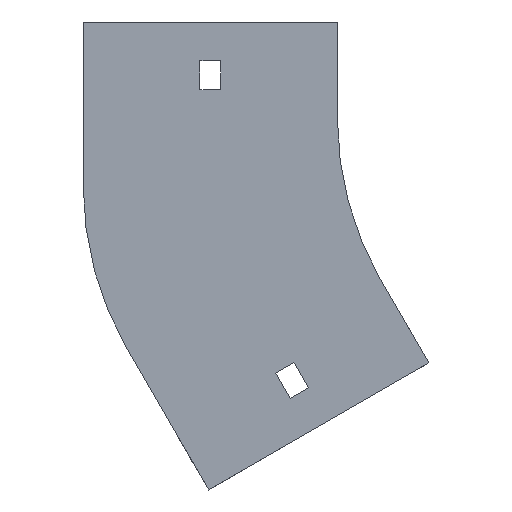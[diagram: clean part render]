
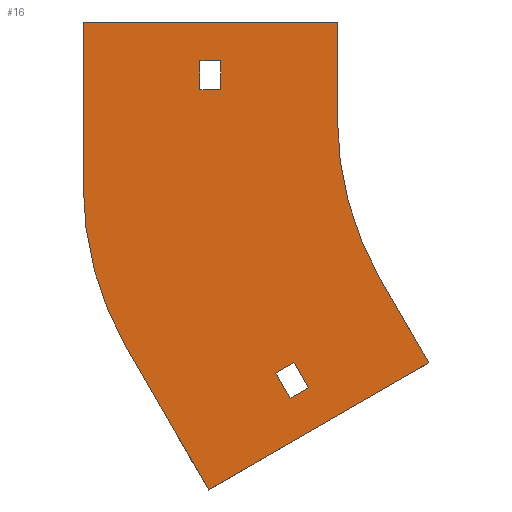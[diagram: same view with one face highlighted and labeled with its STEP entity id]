
A CAD part, front view. The second image highlights one B-rep face of the part: STEP entity #16.
In plain terms, the highlighted planar face has unit normal (0, -1, 0).
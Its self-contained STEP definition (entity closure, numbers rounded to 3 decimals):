
#16 = ADVANCED_FACE ( 'NONE', ( #184, #322, #1391 ), #771, .T. ) ;
#17 = VECTOR ( 'NONE', #772, 1000. ) ;
#30 = ORIENTED_EDGE ( 'NONE', *, *, #1149, .F. ) ;
#37 = CARTESIAN_POINT ( 'NONE',  ( -108.996, 0., -83.713 ) ) ;
#58 = VECTOR ( 'NONE', #1091, 1000. ) ;
#59 = ORIENTED_EDGE ( 'NONE', *, *, #89, .F. ) ;
#77 = LINE ( 'NONE', #320, #613 ) ;
#83 = DIRECTION ( 'NONE',  ( 0., 0., 1. ) ) ;
#85 = DIRECTION ( 'NONE',  ( 0.5, 0., -0.866 ) ) ;
#89 = EDGE_CURVE ( 'NONE', #186, #309, #624, .T. ) ;
#99 = CARTESIAN_POINT ( 'NONE',  ( 0., 0., 0. ) ) ;
#100 = CARTESIAN_POINT ( 'NONE',  ( -140.019, 0., -115.481 ) ) ;
#102 = AXIS2_PLACEMENT_3D ( 'NONE', #965, #948, #300 ) ;
#157 = CARTESIAN_POINT ( 'NONE',  ( -142.75, 0., 18. ) ) ;
#164 = ORIENTED_EDGE ( 'NONE', *, *, #1133, .F. ) ;
#183 = CARTESIAN_POINT ( 'NONE',  ( -140.019, 0., -115.481 ) ) ;
#184 = FACE_BOUND ( 'NONE', #619, .T. ) ;
#186 = VERTEX_POINT ( 'NONE', #553 ) ;
#215 = ORIENTED_EDGE ( 'NONE', *, *, #718, .F. ) ;
#216 = CARTESIAN_POINT ( 'NONE',  ( -71.603, 0., -75.981 ) ) ;
#230 = VERTEX_POINT ( 'NONE', #37 ) ;
#249 = CARTESIAN_POINT ( 'NONE',  ( -136.25, 0., 9. ) ) ;
#258 = VERTEX_POINT ( 'NONE', #1343 ) ;
#268 = VECTOR ( 'NONE', #897, 1000. ) ;
#274 = EDGE_CURVE ( 'NONE', #625, #890, #1139, .T. ) ;
#278 = CIRCLE ( 'NONE', #1137, 100. ) ;
#290 = ORIENTED_EDGE ( 'NONE', *, *, #400, .T. ) ;
#295 = CARTESIAN_POINT ( 'NONE',  ( -142.75, 0., 9. ) ) ;
#300 = DIRECTION ( 'NONE',  ( 0., 0., -1. ) ) ;
#301 = ORIENTED_EDGE ( 'NONE', *, *, #794, .F. ) ;
#309 = VERTEX_POINT ( 'NONE', #586 ) ;
#310 = CARTESIAN_POINT ( 'NONE',  ( -71.603, 0., -75.981 ) ) ;
#314 = DIRECTION ( 'NONE',  ( 0., 0., -1. ) ) ;
#320 = CARTESIAN_POINT ( 'NONE',  ( -142.75, 0., 9. ) ) ;
#322 = FACE_OUTER_BOUND ( 'NONE', #961, .T. ) ;
#323 = LINE ( 'NONE', #1167, #17 ) ;
#328 = LINE ( 'NONE', #1401, #504 ) ;
#353 = EDGE_CURVE ( 'NONE', #866, #1140, #1271, .T. ) ;
#370 = CARTESIAN_POINT ( 'NONE',  ( -119.125, 0., -79.169 ) ) ;
#387 = VERTEX_POINT ( 'NONE', #183 ) ;
#389 = VERTEX_POINT ( 'NONE', #751 ) ;
#394 = EDGE_CURVE ( 'NONE', #309, #389, #1019, .T. ) ;
#400 = EDGE_CURVE ( 'NONE', #1140, #625, #77, .T. ) ;
#420 = EDGE_CURVE ( 'NONE', #1114, #1094, #863, .T. ) ;
#425 = CARTESIAN_POINT ( 'NONE',  ( -179., 0., -21.168 ) ) ;
#427 = VECTOR ( 'NONE', #593, 1000. ) ;
#439 = EDGE_CURVE ( 'NONE', #608, #1278, #1396, .T. ) ;
#454 = VECTOR ( 'NONE', #620, 1000. ) ;
#475 = VECTOR ( 'NONE', #813, 1000. ) ;
#479 = ORIENTED_EDGE ( 'NONE', *, *, #1229, .F. ) ;
#483 = ORIENTED_EDGE ( 'NONE', *, *, #1023, .F. ) ;
#504 = VECTOR ( 'NONE', #85, 1000. ) ;
#524 = DIRECTION ( 'NONE',  ( -0.5, 0., 0.866 ) ) ;
#533 = EDGE_LOOP ( 'NONE', ( #610, #30, #573, #479 ) ) ;
#553 = CARTESIAN_POINT ( 'NONE',  ( -100., 0., 30. ) ) ;
#567 = VECTOR ( 'NONE', #1370, 1000. ) ;
#573 = ORIENTED_EDGE ( 'NONE', *, *, #420, .F. ) ;
#586 = CARTESIAN_POINT ( 'NONE',  ( -100., 0., 0. ) ) ;
#593 = DIRECTION ( 'NONE',  ( 0.5, 0., -0.866 ) ) ;
#599 = CARTESIAN_POINT ( 'NONE',  ( -179., 0., -21.168 ) ) ;
#607 = CARTESIAN_POINT ( 'NONE',  ( -142.75, 0., 18. ) ) ;
#608 = VERTEX_POINT ( 'NONE', #599 ) ;
#610 = ORIENTED_EDGE ( 'NONE', *, *, #726, .F. ) ;
#613 = VECTOR ( 'NONE', #83, 1000. ) ;
#619 = EDGE_LOOP ( 'NONE', ( #290, #1265, #622, #774 ) ) ;
#620 = DIRECTION ( 'NONE',  ( 1., 0., 0. ) ) ;
#622 = ORIENTED_EDGE ( 'NONE', *, *, #1207, .T. ) ;
#624 = LINE ( 'NONE', #911, #268 ) ;
#625 = VERTEX_POINT ( 'NONE', #157 ) ;
#636 = DIRECTION ( 'NONE',  ( 0.866, 0., 0.5 ) ) ;
#669 = EDGE_CURVE ( 'NONE', #389, #857, #1144, .T. ) ;
#687 = VECTOR ( 'NONE', #524, 1000. ) ;
#718 = EDGE_CURVE ( 'NONE', #857, #387, #1156, .T. ) ;
#726 = EDGE_CURVE ( 'NONE', #258, #230, #750, .T. ) ;
#734 = VECTOR ( 'NONE', #872, 1000. ) ;
#750 = LINE ( 'NONE', #853, #1283 ) ;
#751 = CARTESIAN_POINT ( 'NONE',  ( -86.603, 0., -50. ) ) ;
#754 = CARTESIAN_POINT ( 'NONE',  ( -165.603, 0., -71.168 ) ) ;
#768 = CARTESIAN_POINT ( 'NONE',  ( -119.125, 0., -79.169 ) ) ;
#771 = PLANE ( 'NONE',  #1108 ) ;
#772 = DIRECTION ( 'NONE',  ( -0.5, 0., 0.866 ) ) ;
#774 = ORIENTED_EDGE ( 'NONE', *, *, #353, .T. ) ;
#794 = EDGE_CURVE ( 'NONE', #1278, #186, #1163, .T. ) ;
#803 = CARTESIAN_POINT ( 'NONE',  ( -179., 0., 30. ) ) ;
#813 = DIRECTION ( 'NONE',  ( 1., 0., 0. ) ) ;
#828 = DIRECTION ( 'NONE',  ( 0., 1., 0. ) ) ;
#853 = CARTESIAN_POINT ( 'NONE',  ( -114.625, 0., -86.963 ) ) ;
#857 = VERTEX_POINT ( 'NONE', #216 ) ;
#863 = LINE ( 'NONE', #768, #1087 ) ;
#866 = VERTEX_POINT ( 'NONE', #249 ) ;
#867 = CARTESIAN_POINT ( 'NONE',  ( -136.25, 0., 9. ) ) ;
#872 = DIRECTION ( 'NONE',  ( 0., 0., 1. ) ) ;
#876 = CARTESIAN_POINT ( 'NONE',  ( -113.496, 0., -75.919 ) ) ;
#882 = LINE ( 'NONE', #867, #58 ) ;
#890 = VERTEX_POINT ( 'NONE', #1086 ) ;
#895 = ORIENTED_EDGE ( 'NONE', *, *, #394, .F. ) ;
#897 = DIRECTION ( 'NONE',  ( 0., 0., -1. ) ) ;
#911 = CARTESIAN_POINT ( 'NONE',  ( -100., 0., 30. ) ) ;
#941 = CARTESIAN_POINT ( 'NONE',  ( -79., 0., -21.168 ) ) ;
#948 = DIRECTION ( 'NONE',  ( 0., -1., 0. ) ) ;
#956 = DIRECTION ( 'NONE',  ( -0.866, 0., -0.5 ) ) ;
#960 = CARTESIAN_POINT ( 'NONE',  ( -142.75, 0., 9. ) ) ;
#961 = EDGE_LOOP ( 'NONE', ( #301, #1349, #483, #164, #215, #1290, #895, #59 ) ) ;
#965 = CARTESIAN_POINT ( 'NONE',  ( 0., 0., 0. ) ) ;
#1000 = VECTOR ( 'NONE', #1389, 1000. ) ;
#1019 = CIRCLE ( 'NONE', #102, 100. ) ;
#1023 = EDGE_CURVE ( 'NONE', #1200, #608, #278, .T. ) ;
#1037 = CARTESIAN_POINT ( 'NONE',  ( -86.603, 0., -50. ) ) ;
#1086 = CARTESIAN_POINT ( 'NONE',  ( -136.25, 0., 18. ) ) ;
#1087 = VECTOR ( 'NONE', #956, 1000. ) ;
#1091 = DIRECTION ( 'NONE',  ( 0., 0., -1. ) ) ;
#1094 = VERTEX_POINT ( 'NONE', #370 ) ;
#1108 = AXIS2_PLACEMENT_3D ( 'NONE', #99, #1172, #314 ) ;
#1114 = VERTEX_POINT ( 'NONE', #876 ) ;
#1133 = EDGE_CURVE ( 'NONE', #387, #1200, #1387, .T. ) ;
#1137 = AXIS2_PLACEMENT_3D ( 'NONE', #941, #828, #1367 ) ;
#1139 = LINE ( 'NONE', #607, #475 ) ;
#1140 = VERTEX_POINT ( 'NONE', #960 ) ;
#1144 = LINE ( 'NONE', #1037, #427 ) ;
#1149 = EDGE_CURVE ( 'NONE', #1094, #258, #328, .T. ) ;
#1156 = LINE ( 'NONE', #310, #1000 ) ;
#1163 = LINE ( 'NONE', #1383, #454 ) ;
#1167 = CARTESIAN_POINT ( 'NONE',  ( -113.496, 0., -75.919 ) ) ;
#1172 = DIRECTION ( 'NONE',  ( 0., -1., 0. ) ) ;
#1200 = VERTEX_POINT ( 'NONE', #754 ) ;
#1207 = EDGE_CURVE ( 'NONE', #890, #866, #882, .T. ) ;
#1229 = EDGE_CURVE ( 'NONE', #230, #1114, #323, .T. ) ;
#1265 = ORIENTED_EDGE ( 'NONE', *, *, #274, .T. ) ;
#1271 = LINE ( 'NONE', #295, #567 ) ;
#1278 = VERTEX_POINT ( 'NONE', #803 ) ;
#1283 = VECTOR ( 'NONE', #636, 1000. ) ;
#1290 = ORIENTED_EDGE ( 'NONE', *, *, #669, .F. ) ;
#1343 = CARTESIAN_POINT ( 'NONE',  ( -114.625, 0., -86.963 ) ) ;
#1349 = ORIENTED_EDGE ( 'NONE', *, *, #439, .F. ) ;
#1367 = DIRECTION ( 'NONE',  ( 0., 0., 1. ) ) ;
#1370 = DIRECTION ( 'NONE',  ( -1., 0., 0. ) ) ;
#1383 = CARTESIAN_POINT ( 'NONE',  ( -179., 0., 30. ) ) ;
#1387 = LINE ( 'NONE', #100, #687 ) ;
#1389 = DIRECTION ( 'NONE',  ( -0.866, 0., -0.5 ) ) ;
#1391 = FACE_BOUND ( 'NONE', #533, .T. ) ;
#1396 = LINE ( 'NONE', #425, #734 ) ;
#1401 = CARTESIAN_POINT ( 'NONE',  ( -119.125, 0., -79.169 ) ) ;
